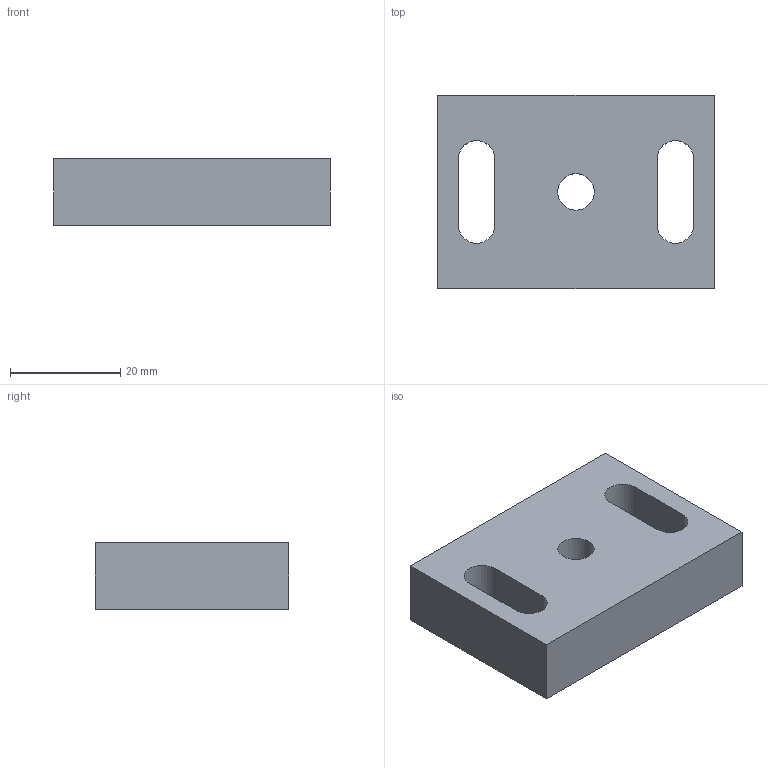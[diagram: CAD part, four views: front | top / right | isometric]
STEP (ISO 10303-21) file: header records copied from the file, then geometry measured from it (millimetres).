
FILE_DESCRIPTION(('Open CASCADE Model'),'2;1');
FILE_NAME('Open CASCADE Shape Model','2026-11-05T14:04:51',('Author'),( 'Open CASCADE'),'Open CASCADE STEP processor 7.8','Open CASCADE 7.8' ,'Unknown');
FILE_SCHEMA(('AUTOMOTIVE_DESIGN { 1 0 10303 214 1 1 1 1 }'));
Length unit declared in the file: millimetre
Products named in the file (1): Open CASCADE STEP translator 7.8 1
Bounding box: 50 x 35 x 12 mm (x, y, z)
Volume: 17472.2 mm3; surface area: 6430.2 mm2
Topology: 1 solids, 1 shells, 17 faces, 42 edges, 28 vertices
Faces by surface type: plane 11, cylinder 6
Full cylindrical faces by diameter (mm): 6.6 x1, 11 x1
Entity records: 1100 total; most frequent: CARTESIAN_POINT 220, DIRECTION 166, LINE 102, VECTOR 102, ORIENTED_EDGE 84, PCURVE 84, DEFINITIONAL_REPRESENTATION 84, EDGE_CURVE 42
